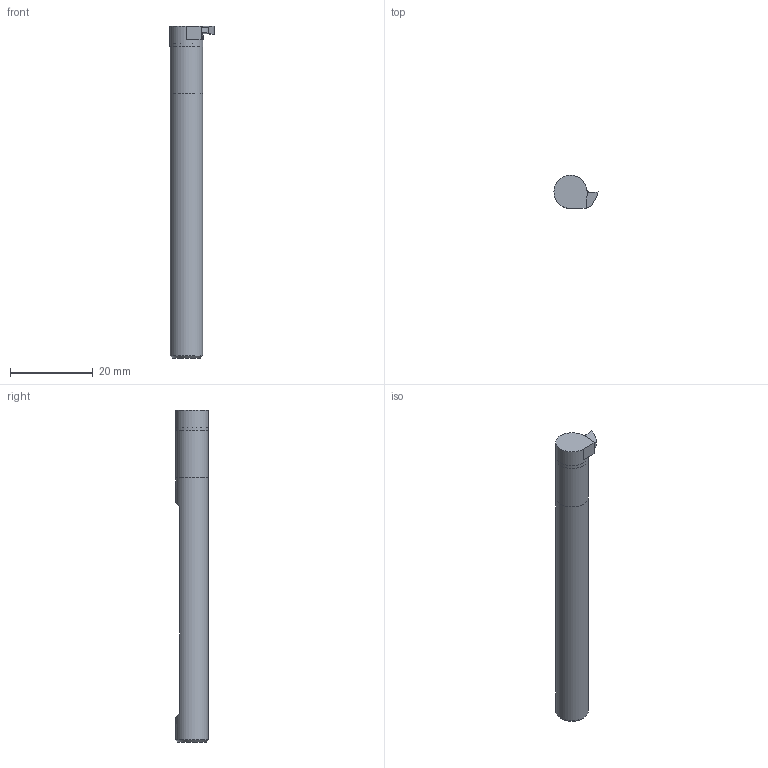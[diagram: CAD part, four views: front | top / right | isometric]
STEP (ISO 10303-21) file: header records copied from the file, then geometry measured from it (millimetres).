
FILE_DESCRIPTION(/* description */ (''),/* implementation_level */ '2;1');
FILE_NAME(/* name */ 'WC_11208Ca.stp',/* time_stamp */ '2021-09-17T11:15:31+09:00',/* author */ (''),/* organization */ (''),/* preprocessor_version */ 'ST-DEVELOPER v11',/* originating_system */ 'SIEMENS UGS NX 6.0',/* authorisation */ '');
FILE_SCHEMA (('CONFIG_CONTROL_DESIGN'));
Length unit declared in the file: millimetre
Products named in the file (1): userD4E8jue0
Bounding box: 10.7 x 8 x 80.46 mm (x, y, z)
Volume: 3819.7 mm3; surface area: 2314.8 mm2
Topology: 3 solids, 3 shells, 29 faces, 65 edges, 43 vertices
Faces by surface type: plane 22, cylinder 6, cone 1
Full cylindrical faces by diameter (mm): 7.9 x2, 8 x1
Entity records: 848 total; most frequent: DIRECTION 140, CARTESIAN_POINT 128, ORIENTED_EDGE 116, EDGE_CURVE 58, AXIS2_PLACEMENT_3D 52, VERTEX_POINT 40, LINE 36, VECTOR 36
